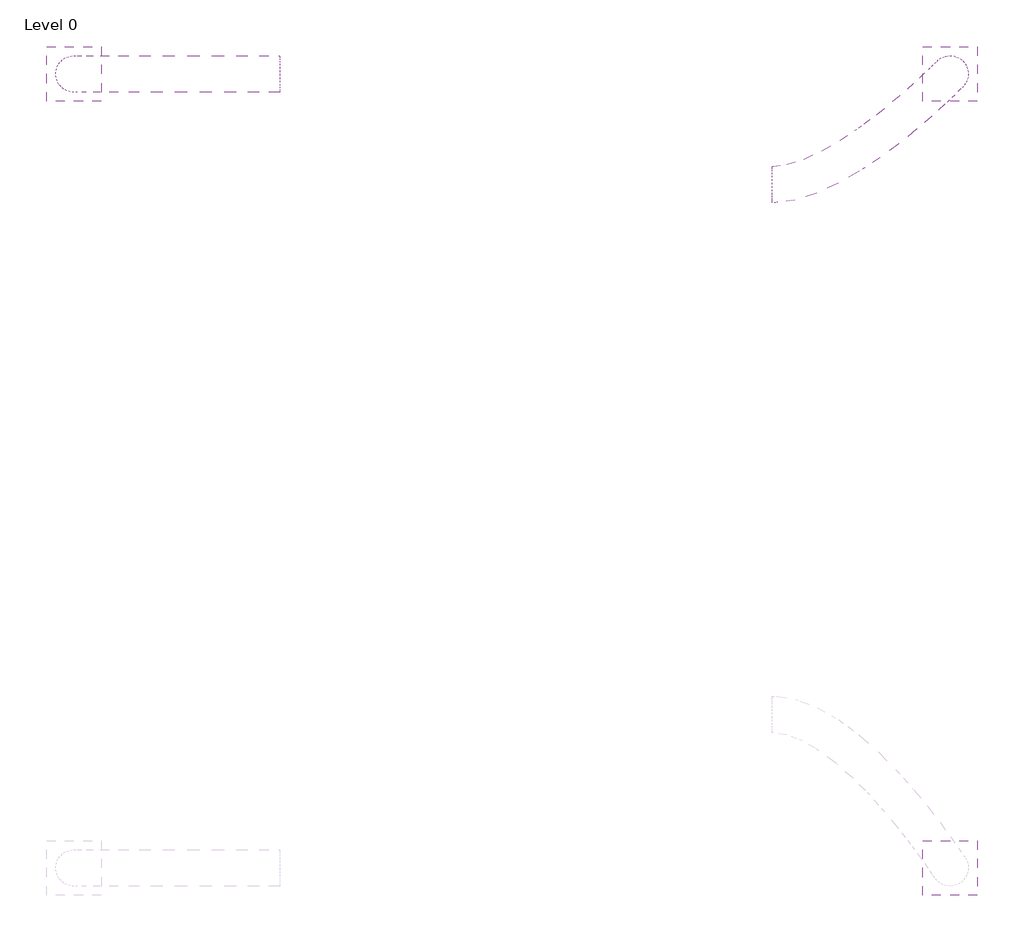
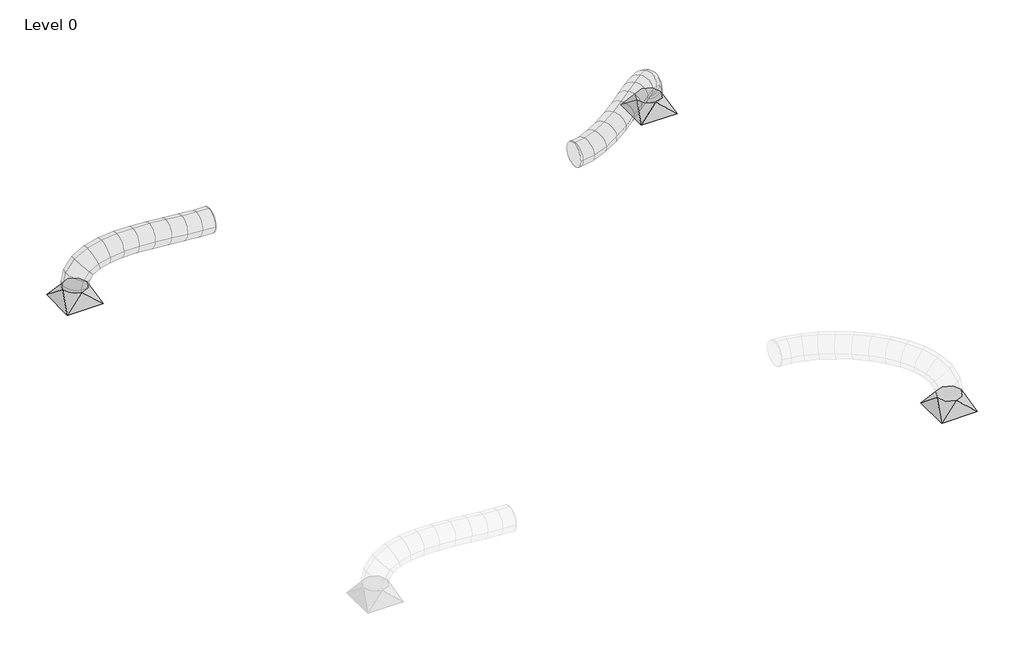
# One storey, part 2 of 2: 3 duct fittings, 2 duct segments.
"""IFC4 building model written with IfcOpenShell, lengths in millimetres."""

from ifc_helpers import new_model, si_unit, frame, origin, place, context, project, spatial, circle_curve, ellipse_curve, transform, mapped, element, save
from ifc_brep_helpers import plane_surface, cylinder_surface, advanced_brep
from components import rectangular_to_round_transition_angle_45_degree_9539f114

model = new_model("IFC4")

# Units and contexts
model_context = context("Model", 3, world=origin())
ifc_project = project(units=[si_unit("LENGTHUNIT", "METRE", prefix="MILLI")], contexts=[model_context])

# Site, building, storey
site = spatial("IfcSite", under=ifc_project)
building = spatial("IfcBuilding", under=site)
storey = spatial("IfcBuildingStorey", under=building, Name="Level 0", Elevation=0.0)

# Duct fittings
placement = place(None, origin())
rectangular_to_round_transition_angle_45_degree_shape = rectangular_to_round_transition_angle_45_degree_9539f114(model_context)
element("IfcDuctFitting", 1, ObjectType="Rectangular to Round Transition - Angle : 45 Degree", at=placement, inside=storey, context=model_context, shape_type="MappedRepresentation", body=[
    mapped(rectangular_to_round_transition_angle_45_degree_shape, transform((6995.4000023, 13534.4000005, 6789.25), x_axis=(0.0, 0.0, 1.0), y_axis=(-1.0, 0.0, 0.0), z_axis=(0.0, -1.0, 0.0))),
])
element("IfcDuctFitting", 2, ObjectType="Rectangular to Round Transition - Angle : 45 Degree", at=placement, inside=storey, context=model_context, shape_type="MappedRepresentation", body=[
    mapped(rectangular_to_round_transition_angle_45_degree_shape, transform((6995.4000023, 9114.8000005, 6789.25), x_axis=(0.0, 0.0, 1.0), y_axis=(-1.0, 0.0, 0.0), z_axis=(0.0, -1.0, 0.0))),
])
element("IfcDuctFitting", 3, ObjectType="Rectangular to Round Transition - Angle : 45 Degree", at=placement, inside=storey, context=model_context, shape_type="MappedRepresentation", body=[
    mapped(rectangular_to_round_transition_angle_45_degree_shape, transform((2118.6000023, 13534.4000005, 6789.25), x_axis=(0.0, 0.0, 1.0), y_axis=(-1.0, 0.0, 0.0), z_axis=(0.0, -1.0, 0.0))),
])

# Duct segments
element("IfcDuctSegment", 4, ObjectType="Flex - Round", at=placement, inside=storey, context=model_context, shape_type="AdvancedBrep", body=[
    advanced_brep(
    [(6006.3875023, 13021.2337557, 7100.4), (6006.3875023, 12919.6337557, 6998.8), (6006.3875023, 12818.0337557, 7100.4), (6006.3875023, 12919.6337557, 7202.0), (6011.5663139, 13021.2337557, 7100.4), (6020.4852648, 12919.6337557, 6998.8), (6025.1396829, 12818.0337557, 7100.4), (6016.2207319, 12919.6337557, 7202.0), (6923.0905917, 13605.7716274, 6911.892049), (7066.7716293, 13606.7094111, 6911.892049), (7067.7094129, 13463.0283735, 6911.892049), (6924.0283753, 13462.0905899, 6911.892049), (6086.5294787, 13031.2978848, 7103.5619865), (6114.9073952, 12932.310335, 7002.7827761), (6130.3732475, 12832.1618168, 7104.8388082), (6101.9953309, 12931.1493666, 7205.6180186), (6180.0528782, 13060.3293812, 7111.8465433), (6225.7549386, 12966.7195854, 7012.6019527), (6252.3139813, 12870.0146109, 7115.6406497), (6206.6119209, 12963.6244068, 7214.8852404), (6280.690568, 13106.2861433, 7123.2168055), (6337.2900795, 13017.6527292, 7025.2034323), (6372.9326966, 12925.0958196, 7129.268411), (6316.333185, 13013.7292337, 7227.2817843), (6384.4866329, 13165.6352979, 7135.0889906), (6447.1680981, 13080.4794608, 7037.7712707), (6490.6411682, 12992.399896, 7142.731896), (6427.959703, 13077.5557331, 7240.0496159), (6487.4988934, 13234.1152958, 7144.665293), (6552.8277419, 13150.7193735, 7047.5936811), (6603.8374355, 13067.6499692, 7153.2549317), (6538.508587, 13151.0458915, 7250.3265435), (6586.2696438, 13307.3479581, 7149.1327978), (6651.3305213, 13223.7533512, 7052.0490653), (6710.435064, 13146.6857981, 7158.0764544), (6645.3741865, 13230.280405, 7255.1601869), (6677.6174297, 13380.9488074, 7145.7032159), (6739.3277575, 13294.6545916, 7048.7452772), (6808.0713681, 13225.35344, 7154.4107749), (6746.3610402, 13311.6476558, 7251.3687136), (6758.5316645, 13450.5651776, 7131.6309954), (6812.9170147, 13357.9687536, 7035.9469822), (6894.2127939, 13299.4671409, 7139.4294661), (6839.8274437, 13392.0635649, 7235.1134794), (6826.1582282, 13511.9273578, 7104.2157727), (6867.6780674, 13407.6571807, 7013.7473261), (6966.1693214, 13364.7581916, 7110.2589136), (6924.6494822, 13469.0283688, 7200.7273602), (6877.8801615, 13560.9660801, 7060.683811), (6900.6632259, 13438.9311475, 6985.985242), (7021.0137696, 13416.7574402, 7064.0988753), (6998.2307053, 13538.7923727, 7138.7974442), (6911.221539, 13593.7577416, 6997.7461943), (6917.7709608, 13455.7568186, 6953.6914335), (7055.6779239, 13450.8500692, 6998.6642887), (7049.1285021, 13588.8509921, 7042.7190495), (6923.0905917, 13605.7716274, 6931.5238752), (6924.0283753, 13462.0905899, 6918.778748), (7067.7094129, 13463.0283735, 6931.5356707), (7066.7716293, 13606.7094111, 6944.2807979)],
    [
        (0, 1, circle_curve(frame((6006.3875023, 12919.6337557, 7100.4), z_axis=(-1.0, 0.0, 0.0), x_axis=(0.0, 1.0, 0.0)), 101.6)),
        (1, 2, circle_curve(frame((6006.3875023, 12919.6337557, 7100.4), z_axis=(-1.0, 0.0, 0.0), x_axis=(0.0, 1.0, 0.0)), 101.6)),
        (2, 3, circle_curve(frame((6006.3875023, 12919.6337557, 7100.4), z_axis=(-1.0, 0.0, 0.0), x_axis=(0.0, 1.0, 0.0)), 101.6)),
        (3, 0, circle_curve(frame((6006.3875023, 12919.6337557, 7100.4), z_axis=(-1.0, 0.0, 0.0), x_axis=(0.0, 1.0, 0.0)), 101.6)),
        (0, 4),
        (4, 5, ellipse_curve(frame((6018.3529984, 12919.6337557, 7100.4), z_axis=(-0.997557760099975, -0.06663493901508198, -0.02093561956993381), x_axis=(-0.06984636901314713, 0.9516915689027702, 0.29900609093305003)), 101.8487391, 101.6)),
        (5, 1),
        (5, 6, ellipse_curve(frame((6018.3529984, 12919.6337557, 7100.4), z_axis=(-0.997557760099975, -0.06663493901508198, -0.02093561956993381), x_axis=(-0.06984636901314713, 0.9516915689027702, 0.29900609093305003)), 101.8487391, 101.6)),
        (6, 2),
        (6, 7, ellipse_curve(frame((6018.3529984, 12919.6337557, 7100.4), z_axis=(-0.997557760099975, -0.06663493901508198, -0.02093561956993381), x_axis=(-0.06984636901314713, 0.9516915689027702, 0.29900609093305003)), 101.8487391, 101.6)),
        (7, 3),
        (7, 4, ellipse_curve(frame((6018.3529984, 12919.6337557, 7100.4), z_axis=(-0.997557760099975, -0.06663493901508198, -0.02093561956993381), x_axis=(-0.06984636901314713, 0.9516915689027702, 0.29900609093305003)), 101.8487391, 101.6)),
        (8, 9, circle_curve(frame((6995.4000023, 13534.4000005, 6911.892049), z_axis=(0.0, 0.0, -1.0), x_axis=(-0.7117067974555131, 0.7024766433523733, 0.0)), 101.6)),
        (9, 10, circle_curve(frame((6995.4000023, 13534.4000005, 6911.892049), z_axis=(0.0, 0.0, -1.0), x_axis=(-0.7117067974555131, 0.7024766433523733, 0.0)), 101.6)),
        (10, 11, circle_curve(frame((6995.4000023, 13534.4000005, 6911.892049), z_axis=(0.0, 0.0, -1.0), x_axis=(-0.7117067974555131, 0.7024766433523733, 0.0)), 101.6)),
        (11, 8, circle_curve(frame((6995.4000023, 13534.4000005, 6911.892049), z_axis=(0.0, 0.0, -1.0), x_axis=(-0.7117067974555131, 0.7024766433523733, 0.0)), 101.6)),
        (4, 12),
        (12, 13, ellipse_curve(frame((6108.4513631, 12931.7298508, 7104.2003973), z_axis=(-0.9745677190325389, -0.214976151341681, -0.06326938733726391), x_axis=(-0.22399619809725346, 0.942819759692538, 0.24681289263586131)), 101.9792194, 101.6)),
        (13, 5),
        (13, 14, ellipse_curve(frame((6108.4513631, 12931.7298508, 7104.2003973), z_axis=(-0.9745677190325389, -0.214976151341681, -0.06326938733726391), x_axis=(-0.22399619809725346, 0.942819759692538, 0.24681289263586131)), 101.9792194, 101.6)),
        (14, 6),
        (14, 15, ellipse_curve(frame((6108.4513631, 12931.7298508, 7104.2003973), z_axis=(-0.9745677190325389, -0.214976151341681, -0.06326938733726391), x_axis=(-0.22399619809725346, 0.942819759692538, 0.24681289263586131)), 101.9792194, 101.6)),
        (15, 7),
        (15, 12, ellipse_curve(frame((6108.4513631, 12931.7298508, 7104.2003973), z_axis=(-0.9745677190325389, -0.214976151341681, -0.06326938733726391), x_axis=(-0.22399619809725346, 0.942819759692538, 0.24681289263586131)), 101.9792194, 101.6)),
        (12, 16),
        (16, 17, ellipse_curve(frame((6216.1834297, 12965.1719961, 7113.7435965), z_axis=(-0.9301674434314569, -0.3550408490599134, -0.09345866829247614), x_axis=(-0.3653402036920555, 0.9202699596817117, 0.14010616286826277)), 101.8087641, 101.6)),
        (17, 13),
        (17, 18, ellipse_curve(frame((6216.1834297, 12965.1719961, 7113.7435965), z_axis=(-0.9301674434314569, -0.3550408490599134, -0.09345866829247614), x_axis=(-0.3653402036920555, 0.9202699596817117, 0.14010616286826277)), 101.8087641, 101.6)),
        (18, 14),
        (18, 19, ellipse_curve(frame((6216.1834297, 12965.1719961, 7113.7435965), z_axis=(-0.9301674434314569, -0.3550408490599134, -0.09345866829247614), x_axis=(-0.3653402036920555, 0.9202699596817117, 0.14010616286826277)), 101.8087641, 101.6)),
        (19, 15),
        (19, 16, ellipse_curve(frame((6216.1834297, 12965.1719961, 7113.7435965), z_axis=(-0.9301674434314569, -0.3550408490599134, -0.09345866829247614), x_axis=(-0.3653402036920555, 0.9202699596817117, 0.14010616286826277)), 101.8087641, 101.6)),
        (16, 20),
        (20, 21, ellipse_curve(frame((6326.8116323, 13015.6909815, 7126.2426083), z_axis=(-0.8852775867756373, -0.4540464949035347, -0.1006249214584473), x_axis=(-0.45263014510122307, 0.8908962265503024, -0.037813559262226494)), 101.7044384, 101.6)),
        (21, 17),
        (21, 22, ellipse_curve(frame((6326.8116323, 13015.6909815, 7126.2426083), z_axis=(-0.8852775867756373, -0.4540464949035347, -0.1006249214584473), x_axis=(-0.45263014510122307, 0.8908962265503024, -0.037813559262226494)), 101.7044384, 101.6)),
        (22, 18),
        (22, 23, ellipse_curve(frame((6326.8116323, 13015.6909815, 7126.2426083), z_axis=(-0.8852775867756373, -0.4540464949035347, -0.1006249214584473), x_axis=(-0.45263014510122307, 0.8908962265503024, -0.037813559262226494)), 101.7044384, 101.6)),
        (23, 19),
        (23, 20, ellipse_curve(frame((6326.8116323, 13015.6909815, 7126.2426083), z_axis=(-0.8852775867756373, -0.4540464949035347, -0.1006249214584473), x_axis=(-0.45263014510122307, 0.8908962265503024, -0.037813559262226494)), 101.7044384, 101.6)),
        (20, 24),
        (24, 25, ellipse_curve(frame((6437.5639005, 13079.0175969, 7138.9104433), z_axis=(-0.8476023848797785, -0.5232753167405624, -0.08805191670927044), x_axis=(-0.4766498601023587, 0.8237398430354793, -0.3070139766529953)), 101.6630506, 101.6)),
        (25, 21),
        (25, 26, ellipse_curve(frame((6437.5639005, 13079.0175969, 7138.9104433), z_axis=(-0.8476023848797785, -0.5232753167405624, -0.08805191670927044), x_axis=(-0.4766498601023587, 0.8237398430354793, -0.3070139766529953)), 101.6630506, 101.6)),
        (26, 22),
        (26, 27, ellipse_curve(frame((6437.5639005, 13079.0175969, 7138.9104433), z_axis=(-0.8476023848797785, -0.5232753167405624, -0.08805191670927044), x_axis=(-0.4766498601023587, 0.8237398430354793, -0.3070139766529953)), 101.6630506, 101.6)),
        (27, 23),
        (27, 24, ellipse_curve(frame((6437.5639005, 13079.0175969, 7138.9104433), z_axis=(-0.8476023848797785, -0.5232753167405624, -0.08805191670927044), x_axis=(-0.4766498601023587, 0.8237398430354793, -0.3070139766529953)), 101.6630506, 101.6)),
        (24, 28),
        (28, 29, ellipse_curve(frame((6545.6681645, 13150.8826325, 7148.9601123), z_axis=(-0.8169644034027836, -0.5738862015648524, -0.056778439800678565), x_axis=(-0.41994747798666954, 0.6595052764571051, -0.6234556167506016)), 101.6546378, 101.6)),
        (29, 25),
        (29, 30, ellipse_curve(frame((6545.6681645, 13150.8826325, 7148.9601123), z_axis=(-0.8169644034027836, -0.5738862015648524, -0.056778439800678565), x_axis=(-0.41994747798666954, 0.6595052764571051, -0.6234556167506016)), 101.6546378, 101.6)),
        (30, 26),
        (30, 31, ellipse_curve(frame((6545.6681645, 13150.8826325, 7148.9601123), z_axis=(-0.8169644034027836, -0.5738862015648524, -0.056778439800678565), x_axis=(-0.41994747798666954, 0.6595052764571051, -0.6234556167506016)), 101.6546378, 101.6)),
        (31, 27),
        (31, 28, ellipse_curve(frame((6545.6681645, 13150.8826325, 7148.9601123), z_axis=(-0.8169644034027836, -0.5738862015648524, -0.056778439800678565), x_axis=(-0.41994747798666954, 0.6595052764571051, -0.6234556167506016)), 101.6546378, 101.6)),
        (28, 32),
        (32, 33, ellipse_curve(frame((6648.3523539, 13227.0168781, 7153.6046261), z_axis=(-0.7911430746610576, -0.6116208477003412, -0.003545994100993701), x_axis=(-0.31738946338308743, 0.4154913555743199, -0.8524264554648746)), 101.6751423, 101.6)),
        (33, 29),
        (33, 34, ellipse_curve(frame((6648.3523539, 13227.0168781, 7153.6046261), z_axis=(-0.7911430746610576, -0.6116208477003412, -0.003545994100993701), x_axis=(-0.31738946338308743, 0.4154913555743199, -0.8524264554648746)), 101.6751423, 101.6)),
        (34, 30),
        (34, 35, ellipse_curve(frame((6648.3523539, 13227.0168781, 7153.6046261), z_axis=(-0.7911430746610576, -0.6116208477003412, -0.003545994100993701), x_axis=(-0.31738946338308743, 0.4154913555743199, -0.8524264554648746)), 101.6751423, 101.6)),
        (35, 31),
        (35, 32, ellipse_curve(frame((6648.3523539, 13227.0168781, 7153.6046261), z_axis=(-0.7911430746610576, -0.6116208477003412, -0.003545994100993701), x_axis=(-0.31738946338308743, 0.4154913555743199, -0.8524264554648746)), 101.6751423, 101.6)),
        (32, 36),
        (36, 37, ellipse_curve(frame((6742.8443989, 13303.1511237, 7150.0569954), z_axis=(-0.7660425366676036, -0.6377823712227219, 0.08007795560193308), x_axis=(-0.25118943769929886, 0.18234930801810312, -0.9506064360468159)), 101.7450469, 101.6)),
        (37, 33),
        (37, 38, ellipse_curve(frame((6742.8443989, 13303.1511237, 7150.0569954), z_axis=(-0.7660425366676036, -0.6377823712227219, 0.08007795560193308), x_axis=(-0.25118943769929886, 0.18234930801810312, -0.9506064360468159)), 101.7450469, 101.6)),
        (38, 34),
        (38, 39, ellipse_curve(frame((6742.8443989, 13303.1511237, 7150.0569954), z_axis=(-0.7660425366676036, -0.6377823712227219, 0.08007795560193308), x_axis=(-0.25118943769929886, 0.18234930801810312, -0.9506064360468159)), 101.7450469, 101.6)),
        (39, 35),
        (39, 36, ellipse_curve(frame((6742.8443989, 13303.1511237, 7150.0569954), z_axis=(-0.7660425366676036, -0.6377823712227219, 0.08007795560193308), x_axis=(-0.25118943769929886, 0.18234930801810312, -0.9506064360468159)), 101.7450469, 101.6)),
        (36, 40),
        (40, 41, ellipse_curve(frame((6826.3722292, 13375.0161592, 7135.5302308), z_axis=(-0.7328422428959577, -0.6472394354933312, 0.2098174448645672), x_axis=(-0.2600335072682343, -0.01853836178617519, -0.9654216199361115)), 101.9368465, 101.6)),
        (41, 37),
        (41, 42, ellipse_curve(frame((6826.3722292, 13375.0161592, 7135.5302308), z_axis=(-0.7328422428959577, -0.6472394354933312, 0.2098174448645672), x_axis=(-0.2600335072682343, -0.01853836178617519, -0.9654216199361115)), 101.9368465, 101.6)),
        (42, 38),
        (42, 43, ellipse_curve(frame((6826.3722292, 13375.0161592, 7135.5302308), z_axis=(-0.7328422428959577, -0.6472394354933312, 0.2098174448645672), x_axis=(-0.2600335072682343, -0.01853836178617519, -0.9654216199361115)), 101.9368465, 101.6)),
        (43, 39),
        (43, 40, ellipse_curve(frame((6826.3722292, 13375.0161592, 7135.5302308), z_axis=(-0.7328422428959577, -0.6472394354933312, 0.2098174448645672), x_axis=(-0.2600335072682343, -0.01853836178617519, -0.9654216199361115)), 101.9368465, 101.6)),
        (40, 44),
        (44, 45, ellipse_curve(frame((6896.1637748, 13438.3427747, 7107.2373432), z_axis=(-0.6698410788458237, -0.6205172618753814, 0.4077637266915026), x_axis=(-0.35058464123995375, -0.2197878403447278, -0.9103755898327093)), 102.4473612, 101.6)),
        (45, 41),
        (45, 46, ellipse_curve(frame((6896.1637748, 13438.3427747, 7107.2373432), z_axis=(-0.6698410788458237, -0.6205172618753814, 0.4077637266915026), x_axis=(-0.35058464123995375, -0.2197878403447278, -0.9103755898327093)), 102.4473612, 101.6)),
        (46, 42),
        (46, 47, ellipse_curve(frame((6896.1637748, 13438.3427747, 7107.2373432), z_axis=(-0.6698410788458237, -0.6205172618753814, 0.4077637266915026), x_axis=(-0.35058464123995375, -0.2197878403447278, -0.9103755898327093)), 102.4473612, 101.6)),
        (47, 43),
        (47, 44, ellipse_curve(frame((6896.1637748, 13438.3427747, 7107.2373432), z_axis=(-0.6698410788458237, -0.6205172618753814, 0.4077637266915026), x_axis=(-0.35058464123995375, -0.2197878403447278, -0.9103755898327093)), 102.4473612, 101.6)),
        (44, 48),
        (48, 49, ellipse_curve(frame((6949.4469656, 13488.8617601, 7062.3913431), z_axis=(-0.5320220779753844, -0.5120869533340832, 0.6743288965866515), x_axis=(-0.5089417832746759, -0.4430773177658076, -0.7380113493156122)), 103.4988294, 101.6)),
        (49, 45),
        (49, 50, ellipse_curve(frame((6949.4469656, 13488.8617601, 7062.3913431), z_axis=(-0.5320220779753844, -0.5120869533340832, 0.6743288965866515), x_axis=(-0.5089417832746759, -0.4430773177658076, -0.7380113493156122)), 103.4988294, 101.6)),
        (50, 46),
        (50, 51, ellipse_curve(frame((6949.4469656, 13488.8617601, 7062.3913431), z_axis=(-0.5320220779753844, -0.5120869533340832, 0.6743288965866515), x_axis=(-0.5089417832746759, -0.4430773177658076, -0.7380113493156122)), 103.4988294, 101.6)),
        (51, 47),
        (51, 48, ellipse_curve(frame((6949.4469656, 13488.8617601, 7062.3913431), z_axis=(-0.5320220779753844, -0.5120869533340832, 0.6743288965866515), x_axis=(-0.5089417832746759, -0.4430773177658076, -0.7380113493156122)), 103.4988294, 101.6)),
        (48, 52),
        (52, 53, ellipse_curve(frame((6983.4497314, 13522.3039054, 6998.2052415), z_axis=(-0.3052117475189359, -0.30271887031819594, 0.9028881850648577), x_axis=(-0.6501401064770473, -0.6265429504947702, -0.429839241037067)), 103.5563035, 101.6)),
        (53, 49),
        (53, 54, ellipse_curve(frame((6983.4497314, 13522.3039054, 6998.2052415), z_axis=(-0.3052117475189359, -0.30271887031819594, 0.9028881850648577), x_axis=(-0.6501401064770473, -0.6265429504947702, -0.429839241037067)), 103.5563035, 101.6)),
        (54, 50),
        (54, 55, ellipse_curve(frame((6983.4497314, 13522.3039054, 6998.2052415), z_axis=(-0.3052117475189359, -0.30271887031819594, 0.9028881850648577), x_axis=(-0.6501401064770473, -0.6265429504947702, -0.429839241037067)), 103.5563035, 101.6)),
        (55, 51),
        (55, 52, ellipse_curve(frame((6983.4497314, 13522.3039054, 6998.2052415), z_axis=(-0.3052117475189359, -0.30271887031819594, 0.9028881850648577), x_axis=(-0.6501401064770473, -0.6265429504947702, -0.429839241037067)), 103.5563035, 101.6)),
        (52, 56),
        (56, 57, ellipse_curve(frame((6995.4000023, 13534.4000005, 6931.529773), z_axis=(-0.08751714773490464, -0.08858508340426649, 0.9922164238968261), x_axis=(-0.6973354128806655, -0.7058447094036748, -0.12452537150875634)), 102.397015, 101.6)),
        (57, 53),
        (57, 58, ellipse_curve(frame((6995.4000023, 13534.4000005, 6931.529773), z_axis=(-0.08751714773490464, -0.08858508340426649, 0.9922164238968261), x_axis=(-0.6973354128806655, -0.7058447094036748, -0.12452537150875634)), 102.397015, 101.6)),
        (58, 54),
        (58, 59, ellipse_curve(frame((6995.4000023, 13534.4000005, 6931.529773), z_axis=(-0.08751714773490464, -0.08858508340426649, 0.9922164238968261), x_axis=(-0.6973354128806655, -0.7058447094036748, -0.12452537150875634)), 102.397015, 101.6)),
        (59, 55),
        (59, 56, ellipse_curve(frame((6995.4000023, 13534.4000005, 6931.529773), z_axis=(-0.08751714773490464, -0.08858508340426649, 0.9922164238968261), x_axis=(-0.6973354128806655, -0.7058447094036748, -0.12452537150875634)), 102.397015, 101.6)),
        (56, 8),
        (11, 57),
        (10, 58),
        (9, 59),
    ],
    [
        plane_surface(frame((6006.3875023, 12919.6337557, 6998.8), z_axis=(-1.0, 0.0, 0.0), x_axis=(0.0, 1.0, 0.0))),
        cylinder_surface(frame((6006.3875023, 12919.6337557, 7100.4), z_axis=(-1.0, 0.0, 0.0), x_axis=(0.0, 1.0, 0.0)), 101.6),
        plane_surface(frame((6995.4000023, 13432.8000005, 6911.892049), z_axis=(0.0, 0.0, -1.0), x_axis=(-1.0, 0.0, 0.0))),
        cylinder_surface(frame((6018.3529984, 12919.6337557, 7100.4), z_axis=(-0.9902429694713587, -0.13294440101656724, -0.04176897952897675), x_axis=(-0.13294440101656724, 0.9911195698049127, -0.002790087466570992)), 101.6),
        cylinder_surface(frame((6108.4513631, 12931.7298508, 7104.2003973), z_axis=(-0.9516444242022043, -0.29540908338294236, -0.08429924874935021), x_axis=(-0.29536044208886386, 0.9552928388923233, -0.013334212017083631)), 101.6),
        cylinder_surface(frame((6216.1834297, 12965.1719961, 7113.7435965), z_axis=(-0.904875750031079, -0.4132165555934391, -0.10223480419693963), x_axis=(-0.4129096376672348, 0.9104248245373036, -0.02514497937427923)), 101.6),
        cylinder_surface(frame((6326.8116323, 13015.6909815, 7126.2426083), z_axis=(-0.8638612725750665, -0.49394393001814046, -0.09880837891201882), x_axis=(-0.49312524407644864, 0.8692833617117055, -0.03426267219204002)), 101.6),
        cylinder_surface(frame((6437.5639005, 13079.0175969, 7138.9104433), z_axis=(-0.8302921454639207, -0.551957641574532, -0.07718623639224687), x_axis=(-0.5505647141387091, 0.8338225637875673, -0.04022968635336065)), 101.6),
        cylinder_surface(frame((6545.6681645, 13150.8826325, 7148.9601123), z_axis=(-0.802758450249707, -0.5951978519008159, -0.036309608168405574), x_axis=(-0.5937712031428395, 0.8034716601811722, -0.04323250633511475)), 101.6),
        cylinder_surface(frame((6648.3523539, 13227.0168781, 7153.6046261), z_axis=(-0.77835832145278, -0.6271398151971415, 0.02922286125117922), x_axis=(-0.6278041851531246, 0.7771612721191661, -0.04338504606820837)), 101.6),
        cylinder_surface(frame((6742.8443989, 13303.1511237, 7150.0569954), z_axis=(-0.7515426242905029, -0.6466064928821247, 0.1307047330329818), x_axis=(-0.6557022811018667, 0.7539342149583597, -0.040468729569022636)), 101.6),
        cylinder_surface(frame((6826.3722292, 13375.0161592, 7135.5302308), z_axis=(-0.7092985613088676, -0.6435948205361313, 0.287543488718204), x_axis=(-0.6790662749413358, 0.7332993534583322, -0.03377946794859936)), 101.6),
        cylinder_surface(frame((6896.1637748, 13438.3427747, 7107.2373432), z_axis=(-0.6193028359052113, -0.5871748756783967, 0.5212385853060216), x_axis=(-0.6977313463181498, 0.7160086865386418, -0.02241716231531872)), 101.6),
        cylinder_surface(frame((6949.4469656, 13488.8617601, 7062.3913431), z_axis=(-0.4252199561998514, -0.41820914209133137, 0.8026762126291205), x_axis=(-0.7089748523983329, 0.7051864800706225, -0.008166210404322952)), 101.6),
        cylinder_surface(frame((6983.4497314, 13522.3039054, 6998.2052415), z_axis=(-0.17367190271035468, -0.17579114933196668, 0.968986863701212), x_axis=(-0.7116967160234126, 0.7024868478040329, -0.00011429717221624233)), 101.6),
        cylinder_surface(frame((6995.4000023, 13534.4000005, 6931.529773), z_axis=(0.0, 0.0, 1.0), x_axis=(-0.7117067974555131, 0.7024766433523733, 0.0)), 101.6),
    ],
    [
        (0, [[1, 2, 3, 4]]),
        (1, [[-1, 5, 6, 7]]),
        (1, [[-2, -7, 8, 9]]),
        (1, [[-3, -9, 10, 11]]),
        (1, [[-4, -11, 12, -5]]),
        (2, [[13, 14, 15, 16]]),
        (3, [[-6, 17, 18, 19]]),
        (3, [[-8, -19, 20, 21]]),
        (3, [[-10, -21, 22, 23]]),
        (3, [[-12, -23, 24, -17]]),
        (4, [[-18, 25, 26, 27]]),
        (4, [[-20, -27, 28, 29]]),
        (4, [[-22, -29, 30, 31]]),
        (4, [[-24, -31, 32, -25]]),
        (5, [[-26, 33, 34, 35]]),
        (5, [[-28, -35, 36, 37]]),
        (5, [[-30, -37, 38, 39]]),
        (5, [[-32, -39, 40, -33]]),
        (6, [[-34, 41, 42, 43]]),
        (6, [[-36, -43, 44, 45]]),
        (6, [[-38, -45, 46, 47]]),
        (6, [[-40, -47, 48, -41]]),
        (7, [[-42, 49, 50, 51]]),
        (7, [[-44, -51, 52, 53]]),
        (7, [[-46, -53, 54, 55]]),
        (7, [[-48, -55, 56, -49]]),
        (8, [[-50, 57, 58, 59]]),
        (8, [[-52, -59, 60, 61]]),
        (8, [[-54, -61, 62, 63]]),
        (8, [[-56, -63, 64, -57]]),
        (9, [[-58, 65, 66, 67]]),
        (9, [[-60, -67, 68, 69]]),
        (9, [[-62, -69, 70, 71]]),
        (9, [[-64, -71, 72, -65]]),
        (10, [[-66, 73, 74, 75]]),
        (10, [[-68, -75, 76, 77]]),
        (10, [[-70, -77, 78, 79]]),
        (10, [[-72, -79, 80, -73]]),
        (11, [[-74, 81, 82, 83]]),
        (11, [[-76, -83, 84, 85]]),
        (11, [[-78, -85, 86, 87]]),
        (11, [[-80, -87, 88, -81]]),
        (12, [[-82, 89, 90, 91]]),
        (12, [[-84, -91, 92, 93]]),
        (12, [[-86, -93, 94, 95]]),
        (12, [[-88, -95, 96, -89]]),
        (13, [[-90, 97, 98, 99]]),
        (13, [[-92, -99, 100, 101]]),
        (13, [[-94, -101, 102, 103]]),
        (13, [[-96, -103, 104, -97]]),
        (14, [[-98, 105, 106, 107]]),
        (14, [[-100, -107, 108, 109]]),
        (14, [[-102, -109, 110, 111]]),
        (14, [[-104, -111, 112, -105]]),
        (15, [[-106, 113, -16, 114]]),
        (15, [[-108, -114, -15, 115]]),
        (15, [[-110, -115, -14, 116]]),
        (15, [[-112, -116, -13, -113]]),
    ],
),
])
element("IfcDuctSegment", 5, ObjectType="Flex - Round", at=placement, inside=storey, context=model_context, shape_type="AdvancedBrep", body=[
    advanced_brep(
    [(3263.1875023, 13432.8000005, 7100.4), (3263.1875023, 13534.4000005, 6998.8), (3263.1875023, 13636.0000005, 7100.4), (3263.1875023, 13534.4000005, 7202.0), (3259.3295058, 13432.8000005, 7100.4), (3257.3321548, 13534.4000005, 6998.8), (3259.3295058, 13636.0000005, 7100.4), (3261.3268568, 13534.4000005, 7202.0), (2118.6000023, 13432.8000005, 6911.892049), (2017.0000023, 13534.4000005, 6911.892049), (2118.6000023, 13636.0000005, 6911.892049), (2220.2000023, 13534.4000005, 6911.892049), (3149.3761625, 13432.8000005, 7104.7248096), (3143.147116, 13534.4000005, 7003.2912555), (3149.3761625, 13636.0000005, 7104.7248096), (3155.6052091, 13534.4000005, 7206.1583638), (3022.245915, 13432.8000005, 7115.3461478), (3013.0157506, 13534.4000005, 7014.1633278), (3022.245915, 13636.0000005, 7115.3461478), (3031.4760793, 13534.4000005, 7216.5289679), (2886.8869242, 13432.8000005, 7128.7343787), (2877.2747779, 13534.4000005, 7027.5893401), (2886.8869242, 13636.0000005, 7128.7343787), (2896.4990705, 13534.4000005, 7229.8794173), (2748.3893549, 13432.8000005, 7141.3598663), (2740.6813448, 13534.4000005, 7040.0412459), (2748.3893549, 13636.0000005, 7141.3598663), (2756.097365, 13534.4000005, 7242.6784866), (2611.8433717, 13432.8000005, 7149.6929746), (2608.5457531, 13534.4000005, 7048.1051976), (2611.8433717, 13636.0000005, 7149.6929746), (2615.1409904, 13534.4000005, 7251.2807517), (2482.3391394, 13432.8000005, 7150.2040679), (2486.82101, 13534.4000005, 7048.5855888), (2482.3391394, 13636.0000005, 7150.2040679), (2477.8572688, 13534.4000005, 7251.8225469), (2364.9668225, 13432.8000005, 7139.36351), (2382.3860887, 13534.4000005, 7038.9399344), (2364.9668225, 13636.0000005, 7139.36351), (2347.5475562, 13534.4000005, 7239.7870856), (2264.8165856, 13432.8000005, 7113.6416651), (2303.175591, 13534.4000005, 7018.5960969), (2264.8165856, 13636.0000005, 7113.6416651), (2226.4575802, 13534.4000005, 7208.6872333), (2186.9785936, 13432.8000005, 7069.5088973), (2255.1453081, 13534.4000005, 6991.3637741), (2186.9785936, 13636.0000005, 7069.5088973), (2118.811879, 13534.4000005, 7147.6540204), (2136.5430109, 13432.8000005, 7003.4355705), (2230.0486398, 13534.4000005, 6958.4857884), (2136.5430109, 13636.0000005, 7003.4355705), (2043.0373821, 13534.4000005, 7048.3853526), (2118.6000023, 13432.8000005, 6931.4343295), (2220.2000023, 13534.4000005, 6918.9654307), (2118.6000023, 13636.0000005, 6931.4343295), (2017.0000023, 13534.4000005, 6943.9032283)],
    [
        (0, 1, circle_curve(frame((3263.1875023, 13534.4000005, 7100.4), z_axis=(1.0, 0.0, 0.0), x_axis=(0.0, -1.0, 0.0)), 101.6)),
        (1, 2, circle_curve(frame((3263.1875023, 13534.4000005, 7100.4), z_axis=(1.0, 0.0, 0.0), x_axis=(0.0, -1.0, 0.0)), 101.6)),
        (2, 3, circle_curve(frame((3263.1875023, 13534.4000005, 7100.4), z_axis=(1.0, 0.0, 0.0), x_axis=(0.0, -1.0, 0.0)), 101.6)),
        (3, 0, circle_curve(frame((3263.1875023, 13534.4000005, 7100.4), z_axis=(1.0, 0.0, 0.0), x_axis=(0.0, -1.0, 0.0)), 101.6)),
        (0, 4),
        (4, 5, ellipse_curve(frame((3259.3295058, 13534.4000005, 7100.4), z_axis=(0.9998068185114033, 0.0, -0.019655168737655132), x_axis=(0.019655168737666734, 0.0, 0.9998068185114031)), 101.619631, 101.6)),
        (5, 1),
        (5, 6, ellipse_curve(frame((3259.3295058, 13534.4000005, 7100.4), z_axis=(0.9998068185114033, 0.0, -0.019655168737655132), x_axis=(0.019655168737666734, 0.0, 0.9998068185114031)), 101.619631, 101.6)),
        (6, 2),
        (6, 7, ellipse_curve(frame((3259.3295058, 13534.4000005, 7100.4), z_axis=(0.9998068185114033, 0.0, -0.019655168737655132), x_axis=(0.019655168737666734, 0.0, 0.9998068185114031)), 101.619631, 101.6)),
        (7, 3),
        (7, 4, ellipse_curve(frame((3259.3295058, 13534.4000005, 7100.4), z_axis=(0.9998068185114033, 0.0, -0.019655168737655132), x_axis=(0.019655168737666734, 0.0, 0.9998068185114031)), 101.619631, 101.6)),
        (8, 9, circle_curve(frame((2118.6000023, 13534.4000005, 6911.892049), z_axis=(0.0, 0.0, -1.0), x_axis=(0.0, -1.0, 0.0)), 101.6)),
        (9, 10, circle_curve(frame((2118.6000023, 13534.4000005, 6911.892049), z_axis=(0.0, 0.0, -1.0), x_axis=(0.0, -1.0, 0.0)), 101.6)),
        (10, 11, circle_curve(frame((2118.6000023, 13534.4000005, 6911.892049), z_axis=(0.0, 0.0, -1.0), x_axis=(0.0, -1.0, 0.0)), 101.6)),
        (11, 8, circle_curve(frame((2118.6000023, 13534.4000005, 6911.892049), z_axis=(0.0, 0.0, -1.0), x_axis=(0.0, -1.0, 0.0)), 101.6)),
        (4, 12),
        (12, 13, ellipse_curve(frame((3149.3761625, 13534.4000005, 7104.7248096), z_axis=(0.9981197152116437, 0.0, -0.06129464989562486), x_axis=(0.0612946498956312, 0.0, 0.9981197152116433)), 101.6246374, 101.6)),
        (13, 5),
        (13, 14, ellipse_curve(frame((3149.3761625, 13534.4000005, 7104.7248096), z_axis=(0.9981197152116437, 0.0, -0.06129464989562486), x_axis=(0.0612946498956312, 0.0, 0.9981197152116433)), 101.6246374, 101.6)),
        (14, 6),
        (14, 15, ellipse_curve(frame((3149.3761625, 13534.4000005, 7104.7248096), z_axis=(0.9981197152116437, 0.0, -0.06129464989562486), x_axis=(0.0612946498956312, 0.0, 0.9981197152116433)), 101.6246374, 101.6)),
        (15, 7),
        (15, 12, ellipse_curve(frame((3149.3761625, 13534.4000005, 7104.7248096), z_axis=(0.9981197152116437, 0.0, -0.06129464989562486), x_axis=(0.0612946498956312, 0.0, 0.9981197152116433)), 101.6246374, 101.6)),
        (12, 16),
        (16, 17, ellipse_curve(frame((3022.245915, 13534.4000005, 7115.3461478), z_axis=(0.9958650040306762, 0.0, -0.09084543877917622), x_axis=(0.09084543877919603, 0.0, 0.9958650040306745)), 101.6029478, 101.6)),
        (17, 13),
        (17, 18, ellipse_curve(frame((3022.245915, 13534.4000005, 7115.3461478), z_axis=(0.9958650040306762, 0.0, -0.09084543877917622), x_axis=(0.09084543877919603, 0.0, 0.9958650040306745)), 101.6029478, 101.6)),
        (18, 14),
        (18, 19, ellipse_curve(frame((3022.245915, 13534.4000005, 7115.3461478), z_axis=(0.9958650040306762, 0.0, -0.09084543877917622), x_axis=(0.09084543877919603, 0.0, 0.9958650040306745)), 101.6029478, 101.6)),
        (19, 15),
        (19, 16, ellipse_curve(frame((3022.245915, 13534.4000005, 7115.3461478), z_axis=(0.9958650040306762, 0.0, -0.09084543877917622), x_axis=(0.09084543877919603, 0.0, 0.9958650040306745)), 101.6029478, 101.6)),
        (16, 20),
        (20, 21, ellipse_curve(frame((2886.8869242, 13534.4000005, 7128.7343787), z_axis=(0.9955146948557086, 0.0, -0.09460704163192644), x_axis=(-0.09460704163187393, 0.0, -0.9955146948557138)), 101.6007489, 101.6)),
        (21, 17),
        (21, 22, ellipse_curve(frame((2886.8869242, 13534.4000005, 7128.7343787), z_axis=(0.9955146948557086, 0.0, -0.09460704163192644), x_axis=(-0.09460704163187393, 0.0, -0.9955146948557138)), 101.6007489, 101.6)),
        (22, 18),
        (22, 23, ellipse_curve(frame((2886.8869242, 13534.4000005, 7128.7343787), z_axis=(0.9955146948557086, 0.0, -0.09460704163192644), x_axis=(-0.09460704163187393, 0.0, -0.9955146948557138)), 101.6007489, 101.6)),
        (23, 19),
        (23, 20, ellipse_curve(frame((2886.8869242, 13534.4000005, 7128.7343787), z_axis=(0.9955146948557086, 0.0, -0.09460704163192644), x_axis=(-0.09460704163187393, 0.0, -0.9955146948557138)), 101.6007489, 101.6)),
        (20, 24),
        (24, 25, ellipse_curve(frame((2748.3893549, 13534.4000005, 7141.3598663), z_axis=(0.9971186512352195, 0.0, -0.07585773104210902), x_axis=(-0.0758577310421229, 0.0, -0.9971186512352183)), 101.6113982, 101.6)),
        (25, 21),
        (25, 26, ellipse_curve(frame((2748.3893549, 13534.4000005, 7141.3598663), z_axis=(0.9971186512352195, 0.0, -0.07585773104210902), x_axis=(-0.0758577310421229, 0.0, -0.9971186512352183)), 101.6113982, 101.6)),
        (26, 22),
        (26, 27, ellipse_curve(frame((2748.3893549, 13534.4000005, 7141.3598663), z_axis=(0.9971186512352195, 0.0, -0.07585773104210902), x_axis=(-0.0758577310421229, 0.0, -0.9971186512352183)), 101.6113982, 101.6)),
        (27, 23),
        (27, 24, ellipse_curve(frame((2748.3893549, 13534.4000005, 7141.3598663), z_axis=(0.9971186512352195, 0.0, -0.07585773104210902), x_axis=(-0.0758577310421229, 0.0, -0.9971186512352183)), 101.6113982, 101.6)),
        (24, 28),
        (28, 29, ellipse_curve(frame((2611.8433717, 13534.4000005, 7149.6929746), z_axis=(0.9994735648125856, 0.0, -0.032443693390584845), x_axis=(-0.03244369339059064, 0.0, -0.9994735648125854)), 101.6412846, 101.6)),
        (29, 25),
        (29, 30, ellipse_curve(frame((2611.8433717, 13534.4000005, 7149.6929746), z_axis=(0.9994735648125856, 0.0, -0.032443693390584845), x_axis=(-0.03244369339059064, 0.0, -0.9994735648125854)), 101.6412846, 101.6)),
        (30, 26),
        (30, 31, ellipse_curve(frame((2611.8433717, 13534.4000005, 7149.6929746), z_axis=(0.9994735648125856, 0.0, -0.032443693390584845), x_axis=(-0.03244369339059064, 0.0, -0.9994735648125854)), 101.6412846, 101.6)),
        (31, 27),
        (31, 28, ellipse_curve(frame((2611.8433717, 13534.4000005, 7149.6929746), z_axis=(0.9994735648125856, 0.0, -0.032443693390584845), x_axis=(-0.03244369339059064, 0.0, -0.9994735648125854)), 101.6412846, 101.6)),
        (28, 32),
        (32, 33, ellipse_curve(frame((2482.3391394, 13534.4000005, 7150.2040679), z_axis=(0.9990287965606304, 0.0, 0.04406204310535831), x_axis=(0.04406204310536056, 0.0, -0.9990287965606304)), 101.7172672, 101.6)),
        (33, 29),
        (33, 34, ellipse_curve(frame((2482.3391394, 13534.4000005, 7150.2040679), z_axis=(0.9990287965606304, 0.0, 0.04406204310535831), x_axis=(0.04406204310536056, 0.0, -0.9990287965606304)), 101.7172672, 101.6)),
        (34, 30),
        (34, 35, ellipse_curve(frame((2482.3391394, 13534.4000005, 7150.2040679), z_axis=(0.9990287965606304, 0.0, 0.04406204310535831), x_axis=(0.04406204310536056, 0.0, -0.9990287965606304)), 101.7172672, 101.6)),
        (35, 31),
        (35, 32, ellipse_curve(frame((2482.3391394, 13534.4000005, 7150.2040679), z_axis=(0.9990287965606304, 0.0, 0.04406204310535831), x_axis=(0.04406204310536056, 0.0, -0.9990287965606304)), 101.7172672, 101.6)),
        (32, 36),
        (36, 37, ellipse_curve(frame((2364.9668225, 13534.4000005, 7139.36351), z_axis=(0.98528735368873, 0.0, 0.17090591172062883), x_axis=(0.17090591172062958, 0.0, -0.9852873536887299)), 101.9231347, 101.6)),
        (37, 33),
        (37, 38, ellipse_curve(frame((2364.9668225, 13534.4000005, 7139.36351), z_axis=(0.98528735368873, 0.0, 0.17090591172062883), x_axis=(0.17090591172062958, 0.0, -0.9852873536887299)), 101.9231347, 101.6)),
        (38, 34),
        (38, 39, ellipse_curve(frame((2364.9668225, 13534.4000005, 7139.36351), z_axis=(0.98528735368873, 0.0, 0.17090591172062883), x_axis=(0.17090591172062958, 0.0, -0.9852873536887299)), 101.9231347, 101.6)),
        (39, 35),
        (39, 36, ellipse_curve(frame((2364.9668225, 13534.4000005, 7139.36351), z_axis=(0.98528735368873, 0.0, 0.17090591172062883), x_axis=(0.17090591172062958, 0.0, -0.9852873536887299)), 101.9231347, 101.6)),
        (36, 40),
        (40, 41, ellipse_curve(frame((2264.8165856, 13534.4000005, 7113.6416651), z_axis=(0.9273257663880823, 0.0, 0.37425515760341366), x_axis=(0.3742551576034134, 0.0, -0.9273257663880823)), 102.4942599, 101.6)),
        (41, 37),
        (41, 42, ellipse_curve(frame((2264.8165856, 13534.4000005, 7113.6416651), z_axis=(0.9273257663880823, 0.0, 0.37425515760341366), x_axis=(0.3742551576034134, 0.0, -0.9273257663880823)), 102.4942599, 101.6)),
        (42, 38),
        (42, 43, ellipse_curve(frame((2264.8165856, 13534.4000005, 7113.6416651), z_axis=(0.9273257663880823, 0.0, 0.37425515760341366), x_axis=(0.3742551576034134, 0.0, -0.9273257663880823)), 102.4942599, 101.6)),
        (43, 39),
        (43, 40, ellipse_curve(frame((2264.8165856, 13534.4000005, 7113.6416651), z_axis=(0.9273257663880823, 0.0, 0.37425515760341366), x_axis=(0.3742551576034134, 0.0, -0.9273257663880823)), 102.4942599, 101.6)),
        (40, 44),
        (44, 45, ellipse_curve(frame((2186.9785936, 13534.4000005, 7069.5088973), z_axis=(0.7535806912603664, 0.0, 0.6573554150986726), x_axis=(0.6573554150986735, 0.0, -0.7535806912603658)), 103.6984148, 101.6)),
        (45, 41),
        (45, 46, ellipse_curve(frame((2186.9785936, 13534.4000005, 7069.5088973), z_axis=(0.7535806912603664, 0.0, 0.6573554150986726), x_axis=(0.6573554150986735, 0.0, -0.7535806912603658)), 103.6984148, 101.6)),
        (46, 42),
        (46, 47, ellipse_curve(frame((2186.9785936, 13534.4000005, 7069.5088973), z_axis=(0.7535806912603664, 0.0, 0.6573554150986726), x_axis=(0.6573554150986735, 0.0, -0.7535806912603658)), 103.6984148, 101.6)),
        (47, 43),
        (47, 44, ellipse_curve(frame((2186.9785936, 13534.4000005, 7069.5088973), z_axis=(0.7535806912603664, 0.0, 0.6573554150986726), x_axis=(0.6573554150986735, 0.0, -0.7535806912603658)), 103.6984148, 101.6)),
        (44, 48),
        (48, 49, ellipse_curve(frame((2136.5430109, 13534.4000005, 7003.4355705), z_axis=(0.43325648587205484, 0.0, 0.9012706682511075), x_axis=(0.9012706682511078, 0.0, -0.4332564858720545)), 103.7486652, 101.6)),
        (49, 45),
        (49, 50, ellipse_curve(frame((2136.5430109, 13534.4000005, 7003.4355705), z_axis=(0.43325648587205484, 0.0, 0.9012706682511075), x_axis=(0.9012706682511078, 0.0, -0.4332564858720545)), 103.7486652, 101.6)),
        (50, 46),
        (50, 51, ellipse_curve(frame((2136.5430109, 13534.4000005, 7003.4355705), z_axis=(0.43325648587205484, 0.0, 0.9012706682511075), x_axis=(0.9012706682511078, 0.0, -0.4332564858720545)), 103.7486652, 101.6)),
        (51, 47),
        (51, 48, ellipse_curve(frame((2136.5430109, 13534.4000005, 7003.4355705), z_axis=(0.43325648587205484, 0.0, 0.9012706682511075), x_axis=(0.9012706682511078, 0.0, -0.4332564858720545)), 103.7486652, 101.6)),
        (48, 52),
        (52, 53, ellipse_curve(frame((2118.6000023, 13534.4000005, 6931.4343295), z_axis=(0.12181147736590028, 0.0, 0.9925532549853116), x_axis=(0.9925532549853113, 0.0, -0.12181147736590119)), 102.3622657, 101.6)),
        (53, 49),
        (53, 54, ellipse_curve(frame((2118.6000023, 13534.4000005, 6931.4343295), z_axis=(0.12181147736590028, 0.0, 0.9925532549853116), x_axis=(0.9925532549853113, 0.0, -0.12181147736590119)), 102.3622657, 101.6)),
        (54, 50),
        (54, 55, ellipse_curve(frame((2118.6000023, 13534.4000005, 6931.4343295), z_axis=(0.12181147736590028, 0.0, 0.9925532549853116), x_axis=(0.9925532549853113, 0.0, -0.12181147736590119)), 102.3622657, 101.6)),
        (55, 51),
        (55, 52, ellipse_curve(frame((2118.6000023, 13534.4000005, 6931.4343295), z_axis=(0.12181147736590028, 0.0, 0.9925532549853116), x_axis=(0.9925532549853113, 0.0, -0.12181147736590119)), 102.3622657, 101.6)),
        (52, 8),
        (11, 53),
        (10, 54),
        (9, 55),
    ],
    [
        plane_surface(frame((3263.1875023, 13534.4000005, 6998.8), z_axis=(1.0, 0.0, 0.0), x_axis=(0.0, -1.0, 0.0))),
        cylinder_surface(frame((3263.1875023, 13534.4000005, 7100.4), z_axis=(1.0, 0.0, 0.0), x_axis=(0.0, -1.0, 0.0)), 101.6),
        plane_surface(frame((2118.6000023, 13432.8000005, 6911.892049), z_axis=(0.0, 0.0, -1.0), x_axis=(-1.0, 0.0, 0.0))),
        cylinder_surface(frame((3259.3295058, 13534.4000005, 7100.4), z_axis=(0.9992273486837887, 0.0, -0.03930274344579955), x_axis=(0.0, -1.0, 0.0)), 101.6),
        cylinder_surface(frame((3149.3761625, 13534.4000005, 7104.7248096), z_axis=(0.9965281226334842, 0.0, -0.08325683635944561), x_axis=(0.0, -1.0, 0.0)), 101.6),
        cylinder_surface(frame((3022.245915, 13534.4000005, 7115.3461478), z_axis=(0.9951440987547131, 0.0, -0.0984287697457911), x_axis=(0.0, -1.0, 0.0)), 101.6),
        cylinder_surface(frame((2886.8869242, 13534.4000005, 7128.7343787), z_axis=(0.9958706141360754, 0.0, -0.0907839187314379), x_axis=(0.0, -1.0, 0.0)), 101.6),
        cylinder_surface(frame((2748.3893549, 13534.4000005, 7141.3598663), z_axis=(0.9981429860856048, 0.0, -0.06091452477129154), x_axis=(0.0, -1.0, 0.0)), 101.6),
        cylinder_surface(frame((2611.8433717, 13534.4000005, 7149.6929746), z_axis=(0.9999922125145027, 0.0, -0.0039465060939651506), x_axis=(0.0, -1.0, 0.0)), 101.6),
        cylinder_surface(frame((2482.3391394, 13534.4000005, 7150.2040679), z_axis=(0.9957618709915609, 0.0, 0.09196899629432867), x_axis=(0.0, -1.0, 0.0)), 101.6),
        cylinder_surface(frame((2364.9668225, 13534.4000005, 7139.36351), z_axis=(0.9685653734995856, 0.0, 0.24875915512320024), x_axis=(0.0, -1.0, 0.0)), 101.6),
        cylinder_surface(frame((2264.8165856, 13534.4000005, 7113.6416651), z_axis=(0.8699043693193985, 0.0, 0.4932204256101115), x_axis=(0.0, -1.0, 0.0)), 101.6),
        cylinder_surface(frame((2186.9785936, 13534.4000005, 7069.5088973), z_axis=(0.6067584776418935, 0.0, 0.7948862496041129), x_axis=(0.0, -1.0, 0.0)), 101.6),
        cylinder_surface(frame((2136.5430109, 13534.4000005, 7003.4355705), z_axis=(0.2418087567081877, 0.0, 0.9703239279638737), x_axis=(0.0, -1.0, 0.0)), 101.6),
        cylinder_surface(frame((2118.6000023, 13534.4000005, 6931.4343295), z_axis=(0.0, 0.0, 1.0), x_axis=(0.0, -1.0, 0.0)), 101.6),
    ],
    [
        (0, [[1, 2, 3, 4]]),
        (1, [[-1, 5, 6, 7]]),
        (1, [[-2, -7, 8, 9]]),
        (1, [[-3, -9, 10, 11]]),
        (1, [[-4, -11, 12, -5]]),
        (2, [[13, 14, 15, 16]]),
        (3, [[-6, 17, 18, 19]]),
        (3, [[-8, -19, 20, 21]]),
        (3, [[-10, -21, 22, 23]]),
        (3, [[-12, -23, 24, -17]]),
        (4, [[-18, 25, 26, 27]]),
        (4, [[-20, -27, 28, 29]]),
        (4, [[-22, -29, 30, 31]]),
        (4, [[-24, -31, 32, -25]]),
        (5, [[-26, 33, 34, 35]]),
        (5, [[-28, -35, 36, 37]]),
        (5, [[-30, -37, 38, 39]]),
        (5, [[-32, -39, 40, -33]]),
        (6, [[-34, 41, 42, 43]]),
        (6, [[-36, -43, 44, 45]]),
        (6, [[-38, -45, 46, 47]]),
        (6, [[-40, -47, 48, -41]]),
        (7, [[-42, 49, 50, 51]]),
        (7, [[-44, -51, 52, 53]]),
        (7, [[-46, -53, 54, 55]]),
        (7, [[-48, -55, 56, -49]]),
        (8, [[-50, 57, 58, 59]]),
        (8, [[-52, -59, 60, 61]]),
        (8, [[-54, -61, 62, 63]]),
        (8, [[-56, -63, 64, -57]]),
        (9, [[-58, 65, 66, 67]]),
        (9, [[-60, -67, 68, 69]]),
        (9, [[-62, -69, 70, 71]]),
        (9, [[-64, -71, 72, -65]]),
        (10, [[-66, 73, 74, 75]]),
        (10, [[-68, -75, 76, 77]]),
        (10, [[-70, -77, 78, 79]]),
        (10, [[-72, -79, 80, -73]]),
        (11, [[-74, 81, 82, 83]]),
        (11, [[-76, -83, 84, 85]]),
        (11, [[-78, -85, 86, 87]]),
        (11, [[-80, -87, 88, -81]]),
        (12, [[-82, 89, 90, 91]]),
        (12, [[-84, -91, 92, 93]]),
        (12, [[-86, -93, 94, 95]]),
        (12, [[-88, -95, 96, -89]]),
        (13, [[-90, 97, 98, 99]]),
        (13, [[-92, -99, 100, 101]]),
        (13, [[-94, -101, 102, 103]]),
        (13, [[-96, -103, 104, -97]]),
        (14, [[-98, 105, -16, 106]]),
        (14, [[-100, -106, -15, 107]]),
        (14, [[-102, -107, -14, 108]]),
        (14, [[-104, -108, -13, -105]]),
    ],
),
])

save(model, "model.ifc")
